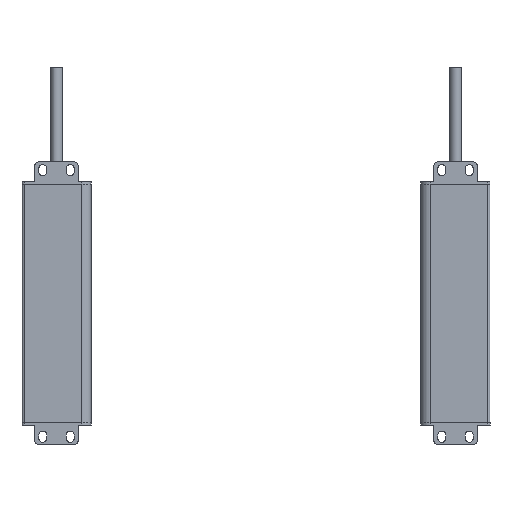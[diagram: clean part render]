
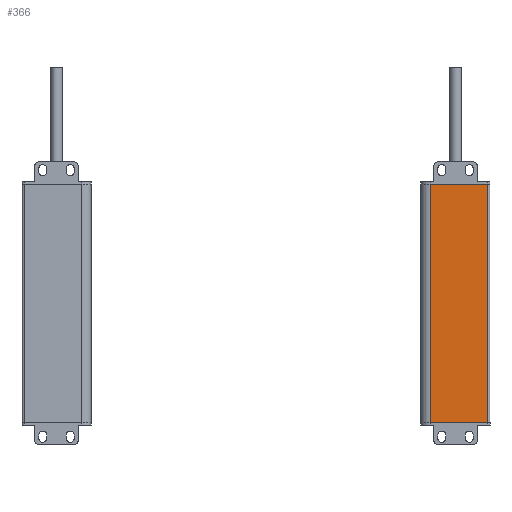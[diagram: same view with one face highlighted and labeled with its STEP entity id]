
A CAD part, front view. The second image highlights one B-rep face of the part: STEP entity #366.
In plain terms, the highlighted planar face has unit normal (0, -1, 0).
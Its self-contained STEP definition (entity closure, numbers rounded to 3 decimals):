
#123=PLANE('',#5869);
#366=ADVANCED_FACE('',(#797),#123,.T.);
#797=FACE_OUTER_BOUND('',#1073,.T.);
#1073=EDGE_LOOP('',(#1780,#1781,#1782,#1783));
#1780=ORIENTED_EDGE('',*,*,#3977,.T.);
#1781=ORIENTED_EDGE('',*,*,#3978,.F.);
#1782=ORIENTED_EDGE('',*,*,#3979,.F.);
#1783=ORIENTED_EDGE('',*,*,#3903,.T.);
#3351=VERTEX_POINT('',#8106);
#3352=VERTEX_POINT('',#8108);
#3421=VERTEX_POINT('',#8253);
#3422=VERTEX_POINT('',#8257);
#3903=EDGE_CURVE('',#3352,#3351,#4726,.T.);
#3977=EDGE_CURVE('',#3351,#3421,#4771,.T.);
#3978=EDGE_CURVE('',#3422,#3421,#4772,.T.);
#3979=EDGE_CURVE('',#3352,#3422,#4773,.T.);
#4726=LINE('',#8107,#5280);
#4771=LINE('',#8254,#5325);
#4772=LINE('',#8256,#5326);
#4773=LINE('',#8258,#5327);
#5280=VECTOR('',#6413,1.);
#5325=VECTOR('',#6522,1.);
#5326=VECTOR('',#6525,1.);
#5327=VECTOR('',#6526,1.);
#5869=AXIS2_PLACEMENT_3D('',#8259,#6527,#6528);
#6413=DIRECTION('',(1.,0.,0.));
#6522=DIRECTION('',(0.,0.,1.));
#6525=DIRECTION('',(1.,0.,0.));
#6526=DIRECTION('',(0.,0.,1.));
#6527=DIRECTION('',(0.,-1.,0.));
#6528=DIRECTION('',(-1.,0.,0.));
#8106=CARTESIAN_POINT('',(3.35,-1.3,-100.));
#8107=CARTESIAN_POINT('',(-21.15,-1.3,-100.));
#8108=CARTESIAN_POINT('',(-21.15,-1.3,-100.));
#8253=CARTESIAN_POINT('',(3.35,-1.3,2.));
#8254=CARTESIAN_POINT('',(3.35,-1.3,-100.));
#8256=CARTESIAN_POINT('',(-4122.897,-1.3,2.));
#8257=CARTESIAN_POINT('',(-21.15,-1.3,2.));
#8258=CARTESIAN_POINT('',(-21.15,-1.3,-100.));
#8259=CARTESIAN_POINT('',(-21.15,-1.3,-100.));
